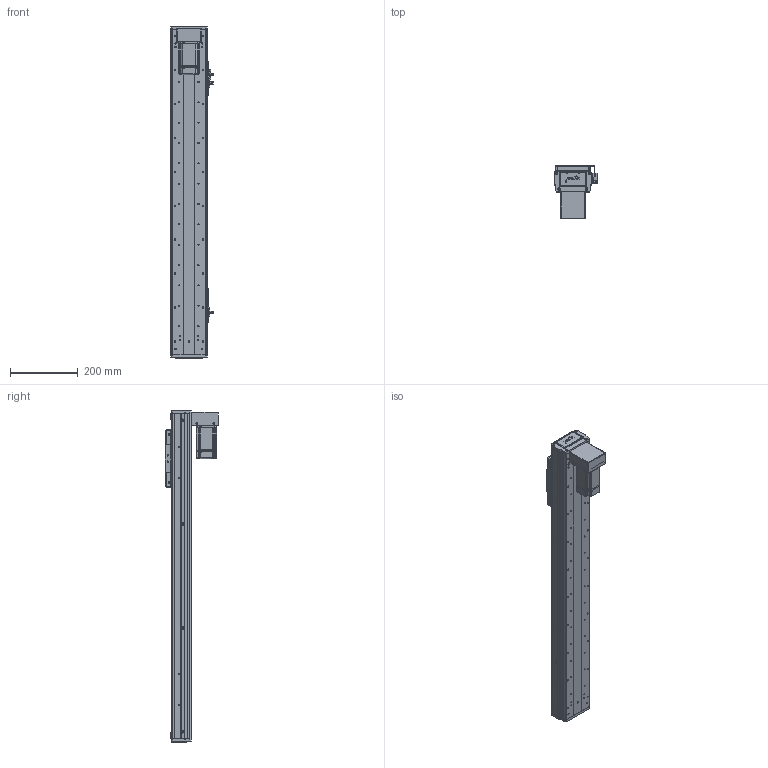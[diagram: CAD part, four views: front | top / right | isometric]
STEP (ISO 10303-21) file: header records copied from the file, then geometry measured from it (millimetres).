
FILE_DESCRIPTION (( 'STEP AP203' ), '1' );
FILE_NAME ('RY100FS-L1620-300-BK(15双轨).SLDASM_700.step', '2021-03-02T07:33:51', ( '盈信电脑' ), ( '东莞市道滘镇水果街19号' ), 'SwSTEP 2.0', 'SolidWorks 2012', '' );
FILE_SCHEMA (( 'CONFIG_CONTROL_DESIGN' ));
Length unit declared in the file: millimetre
Products named in the file (21): RY100FS-L1620-300-BK(15邧寢).SLDASM_700; 滅袉蝶18-15; 蚥薯蝶紫輸; 1; RY100FS-15双轨下折钢带安装板; RY100FS-15邧寢狟殏萇儂欶; RY100FS-双轨螺母座(16丝杆）; 覜茼ん672; RY100FS-15邧寢狟殏萇儂啣; RY100F-詩湍揤踡輸; 672嫖萇羲壽假蚾釱; RY80俋离覜茼え; RY100F-綴裔啣; RY100F-詩湍幗謫粣; RY100F-詩湍揤踡謫; RY100F-滅鳥裔啣; 棠沺沭; RY100FS-双轨铝滑块(上板）; RY100FS-300-BK15邧寢祥凄詩湍_700; RY100FS-300-BK15絳寢倰第奻裔啣_700; RY100FS-300-BK15絳寢倰第菁釱_700
Assembly tree (30 placements, depth 2):
  RY100FS-L1620-300-BK(15邧寢).SLDASM_700
    RY100FS-300-BK15絳寢倰第菁釱_700
    RY100FS-300-BK15絳寢倰第奻裔啣_700  x2
    RY100FS-300-BK15邧寢祥凄詩湍_700
    RY100FS-双轨铝滑块(上板）
    RY100F-滅鳥裔啣
    棠沺沭  x2
    RY100F-詩湍幗謫粣
    RY100F-詩湍揤踡謫  x2
    RY100F-綴裔啣  x2
    672嫖萇羲壽假蚾釱  x2
    RY80俋离覜茼え  x2
    覜茼ん672  x3
    RY100F-詩湍揤踡輸  x2
    RY100FS-双轨螺母座(16丝杆）
    RY100FS-15邧寢狟殏萇儂啣
    RY100FS-15邧寢狟殏萇儂欶
    蚥薯蝶紫輸
    RY100FS-15双轨下折钢带安装板
    滅袉蝶18-15  x2
    1
Bounding box: 126.2 x 158.5 x 979 mm (x, y, z)
Volume: 2391248.7 mm3; surface area: 1000720.9 mm2
Topology: 30 solids, 30 shells, 2284 faces, 6243 edges, 4064 vertices
Faces by surface type: plane 1098, cylinder 1018, cone 132, bspline 36
Entity records: 62464 total; most frequent: CARTESIAN_POINT 13323, ORIENTED_EDGE 9726, DIRECTION 9712, EDGE_CURVE 4863, AXIS2_PLACEMENT_3D 3409, VERTEX_POINT 3202, VECTOR 2894, LINE 2894
